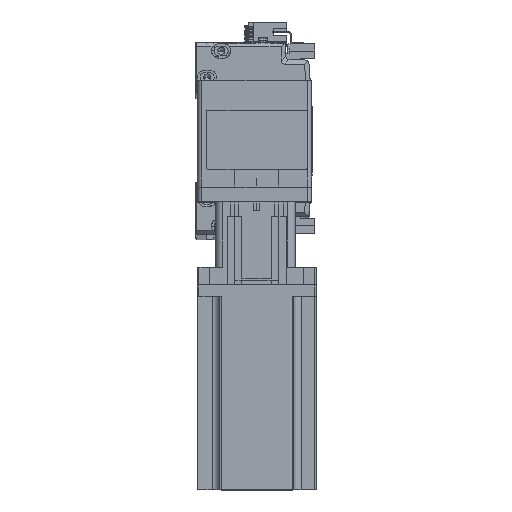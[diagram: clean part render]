
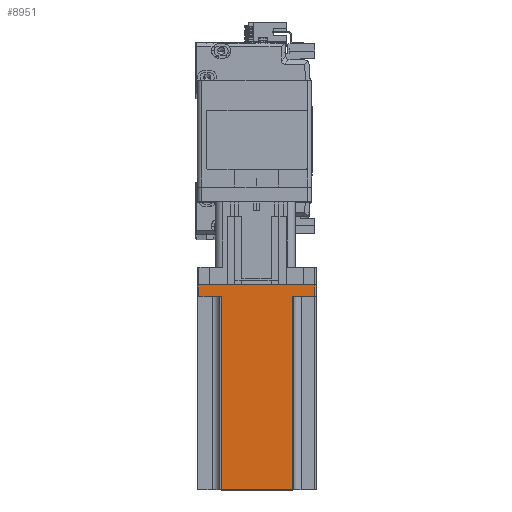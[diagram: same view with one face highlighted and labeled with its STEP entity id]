
A CAD part, top view. The second image highlights one B-rep face of the part: STEP entity #8951.
In plain terms, the highlighted planar face has unit normal (0, 0, 1) as drawn and (0, 1, 0) by its records, which use the part's own axes.
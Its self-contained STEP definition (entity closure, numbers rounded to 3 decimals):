
#845 = DIRECTION ( 'NONE',  ( 0., 0., -1. ) ) ;
#947 = LINE ( 'NONE', #27211, #58551 ) ;
#1071 = VECTOR ( 'NONE', #13373, 1000. ) ;
#2539 = DIRECTION ( 'NONE',  ( 0., 0., 1. ) ) ;
#3210 = CARTESIAN_POINT ( 'NONE',  ( 40., 40., 138.3 ) ) ;
#3630 = ORIENTED_EDGE ( 'NONE', *, *, #30420, .F. ) ;
#4732 = LINE ( 'NONE', #7794, #15675 ) ;
#4887 = CARTESIAN_POINT ( 'NONE',  ( -39., 40., 0. ) ) ;
#5621 = ORIENTED_EDGE ( 'NONE', *, *, #36427, .T. ) ;
#5669 = EDGE_CURVE ( 'NONE', #31573, #41866, #53519, .T. ) ;
#6178 = DIRECTION ( 'NONE',  ( 0., 0., 1. ) ) ;
#6450 = ORIENTED_EDGE ( 'NONE', *, *, #15666, .T. ) ;
#7794 = CARTESIAN_POINT ( 'NONE',  ( -25., 40., 8. ) ) ;
#7928 = DIRECTION ( 'NONE',  ( 1., 0., 0. ) ) ;
#8677 = CARTESIAN_POINT ( 'NONE',  ( 40., 40., 0. ) ) ;
#8951 = ADVANCED_FACE ( 'NONE', ( #30791 ), #45091, .F. ) ;
#10151 = VERTEX_POINT ( 'NONE', #27160 ) ;
#13373 = DIRECTION ( 'NONE',  ( -1., 0., 0. ) ) ;
#14729 = CARTESIAN_POINT ( 'NONE',  ( -24., 40., 138.3 ) ) ;
#15666 = EDGE_CURVE ( 'NONE', #10151, #31573, #4732, .T. ) ;
#15675 = VECTOR ( 'NONE', #40458, 1000. ) ;
#17771 = VECTOR ( 'NONE', #2539, 1000. ) ;
#19539 = CARTESIAN_POINT ( 'NONE',  ( -24., 40., 8. ) ) ;
#21923 = VECTOR ( 'NONE', #45555, 1000. ) ;
#26082 = VECTOR ( 'NONE', #845, 1000. ) ;
#27160 = CARTESIAN_POINT ( 'NONE',  ( -39., 40., 8. ) ) ;
#27211 = CARTESIAN_POINT ( 'NONE',  ( 24., 40., 138.3 ) ) ;
#27906 = VERTEX_POINT ( 'NONE', #49061 ) ;
#28089 = AXIS2_PLACEMENT_3D ( 'NONE', #3210, #35902, #7928 ) ;
#28630 = CARTESIAN_POINT ( 'NONE',  ( 24., 40., 8. ) ) ;
#28672 = ORIENTED_EDGE ( 'NONE', *, *, #31878, .F. ) ;
#28724 = ORIENTED_EDGE ( 'NONE', *, *, #29865, .T. ) ;
#28748 = LINE ( 'NONE', #38838, #41167 ) ;
#29597 = DIRECTION ( 'NONE',  ( -1., 0., 0. ) ) ;
#29865 = EDGE_CURVE ( 'NONE', #49530, #10151, #28748, .T. ) ;
#30420 = EDGE_CURVE ( 'NONE', #27906, #57132, #49118, .T. ) ;
#30791 = FACE_OUTER_BOUND ( 'NONE', #35970, .T. ) ;
#31492 = CARTESIAN_POINT ( 'NONE',  ( 40., 40., 138.3 ) ) ;
#31573 = VERTEX_POINT ( 'NONE', #19539 ) ;
#31878 = EDGE_CURVE ( 'NONE', #44102, #41866, #34309, .T. ) ;
#33774 = ORIENTED_EDGE ( 'NONE', *, *, #46100, .T. ) ;
#34309 = LINE ( 'NONE', #31492, #21923 ) ;
#35119 = CARTESIAN_POINT ( 'NONE',  ( 39., 40., 0. ) ) ;
#35902 = DIRECTION ( 'NONE',  ( 0., -1., 0. ) ) ;
#35970 = EDGE_LOOP ( 'NONE', ( #6450, #46706, #28672, #33774, #3630, #5621, #40710, #28724 ) ) ;
#36415 = DIRECTION ( 'NONE',  ( 0., 0., -1. ) ) ;
#36427 = EDGE_CURVE ( 'NONE', #27906, #54288, #52329, .T. ) ;
#38287 = LINE ( 'NONE', #8677, #1071 ) ;
#38838 = CARTESIAN_POINT ( 'NONE',  ( -39., 40., 138.3 ) ) ;
#40098 = CARTESIAN_POINT ( 'NONE',  ( -24., 40., 138.3 ) ) ;
#40458 = DIRECTION ( 'NONE',  ( 1., 0., 0. ) ) ;
#40710 = ORIENTED_EDGE ( 'NONE', *, *, #45482, .T. ) ;
#41167 = VECTOR ( 'NONE', #6178, 1000. ) ;
#41866 = VERTEX_POINT ( 'NONE', #14729 ) ;
#42864 = CARTESIAN_POINT ( 'NONE',  ( 39., 40., 138.3 ) ) ;
#44102 = VERTEX_POINT ( 'NONE', #56556 ) ;
#45091 = PLANE ( 'NONE',  #28089 ) ;
#45482 = EDGE_CURVE ( 'NONE', #54288, #49530, #38287, .T. ) ;
#45555 = DIRECTION ( 'NONE',  ( -1., 0., 0. ) ) ;
#46100 = EDGE_CURVE ( 'NONE', #44102, #57132, #947, .T. ) ;
#46264 = VECTOR ( 'NONE', #29597, 1000. ) ;
#46706 = ORIENTED_EDGE ( 'NONE', *, *, #5669, .T. ) ;
#49061 = CARTESIAN_POINT ( 'NONE',  ( 39., 40., 8. ) ) ;
#49118 = LINE ( 'NONE', #52821, #46264 ) ;
#49530 = VERTEX_POINT ( 'NONE', #4887 ) ;
#52329 = LINE ( 'NONE', #42864, #26082 ) ;
#52821 = CARTESIAN_POINT ( 'NONE',  ( 25., 40., 8. ) ) ;
#53519 = LINE ( 'NONE', #40098, #17771 ) ;
#54288 = VERTEX_POINT ( 'NONE', #35119 ) ;
#56556 = CARTESIAN_POINT ( 'NONE',  ( 24., 40., 138.3 ) ) ;
#57132 = VERTEX_POINT ( 'NONE', #28630 ) ;
#58551 = VECTOR ( 'NONE', #36415, 1000. ) ;
